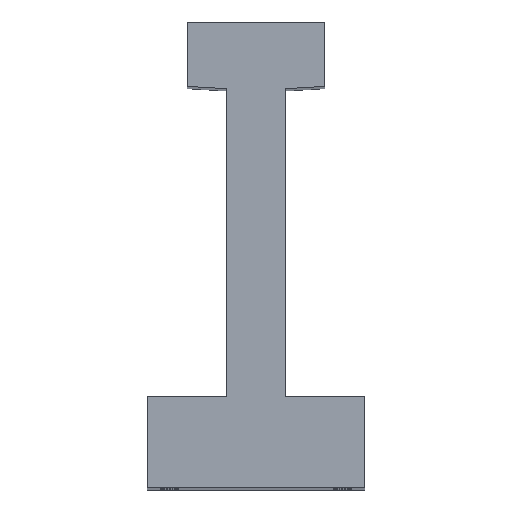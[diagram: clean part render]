
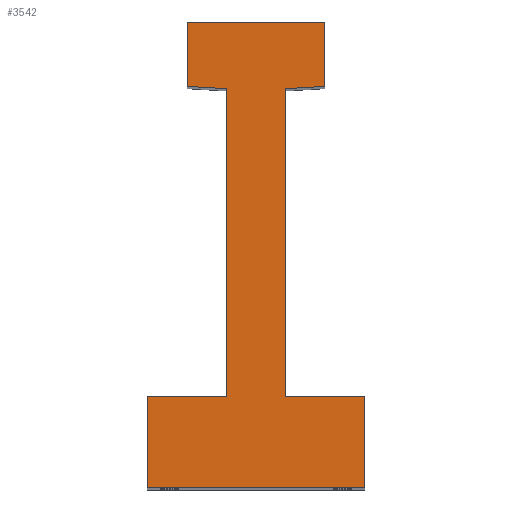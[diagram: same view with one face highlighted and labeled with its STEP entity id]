
A CAD part, top view. The second image highlights one B-rep face of the part: STEP entity #3542.
In plain terms, the highlighted planar face has unit normal (0, 0, 1).
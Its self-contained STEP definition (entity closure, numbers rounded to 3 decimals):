
#5 = CARTESIAN_POINT ( 'NONE',  ( -24.5, 0., 150.5 ) ) ;
#96 = EDGE_CURVE ( 'NONE', #1202, #1522, #4627, .T. ) ;
#150 = VECTOR ( 'NONE', #3651, 1000. ) ;
#190 = CARTESIAN_POINT ( 'NONE',  ( 6.6, 20.5, 150.5 ) ) ;
#192 = LINE ( 'NONE', #4562, #2494 ) ;
#211 = EDGE_CURVE ( 'NONE', #1436, #2612, #4349, .T. ) ;
#439 = VECTOR ( 'NONE', #743, 1000. ) ;
#583 = FACE_OUTER_BOUND ( 'NONE', #1184, .T. ) ;
#588 = VECTOR ( 'NONE', #3634, 1000. ) ;
#633 = CARTESIAN_POINT ( 'NONE',  ( -15.5, 104.8, 150.5 ) ) ;
#690 = CARTESIAN_POINT ( 'NONE',  ( 24.5, 20.5, 150.5 ) ) ;
#692 = VECTOR ( 'NONE', #4153, 1000. ) ;
#711 = LINE ( 'NONE', #1833, #588 ) ;
#724 = DIRECTION ( 'NONE',  ( -0.998, 0.056, 0. ) ) ;
#728 = DIRECTION ( 'NONE',  ( 1., 0., 0. ) ) ;
#743 = DIRECTION ( 'NONE',  ( 0., 1., 0. ) ) ;
#773 = CARTESIAN_POINT ( 'NONE',  ( -6.6, 89.8, 150.5 ) ) ;
#786 = VECTOR ( 'NONE', #1640, 1000. ) ;
#788 = CARTESIAN_POINT ( 'NONE',  ( 24.5, 0., 150.5 ) ) ;
#801 = DIRECTION ( 'NONE',  ( 0.998, 0.056, 0. ) ) ;
#863 = EDGE_CURVE ( 'NONE', #3700, #3867, #711, .T. ) ;
#877 = CARTESIAN_POINT ( 'NONE',  ( 24.5, 20.5, 150.5 ) ) ;
#890 = ORIENTED_EDGE ( 'NONE', *, *, #863, .T. ) ;
#999 = CARTESIAN_POINT ( 'NONE',  ( 6.6, 89.8, 150.5 ) ) ;
#1140 = PLANE ( 'NONE',  #3842 ) ;
#1155 = EDGE_CURVE ( 'NONE', #1522, #2568, #2255, .T. ) ;
#1164 = EDGE_CURVE ( 'NONE', #3867, #2612, #3809, .T. ) ;
#1167 = CARTESIAN_POINT ( 'NONE',  ( 6.6, 89.8, 150.5 ) ) ;
#1180 = CARTESIAN_POINT ( 'NONE',  ( -24.5, 20.5, 150.5 ) ) ;
#1184 = EDGE_LOOP ( 'NONE', ( #2032, #4057, #3939, #3127, #2171, #1977, #2379, #4394, #3873, #1569, #890, #3522 ) ) ;
#1194 = VERTEX_POINT ( 'NONE', #3945 ) ;
#1202 = VERTEX_POINT ( 'NONE', #690 ) ;
#1350 = VERTEX_POINT ( 'NONE', #1180 ) ;
#1384 = VECTOR ( 'NONE', #728, 1000. ) ;
#1407 = LINE ( 'NONE', #3625, #439 ) ;
#1419 = CARTESIAN_POINT ( 'NONE',  ( -15.5, 89.8, 150.5 ) ) ;
#1436 = VERTEX_POINT ( 'NONE', #1519 ) ;
#1519 = CARTESIAN_POINT ( 'NONE',  ( -6.6, 89.8, 150.5 ) ) ;
#1522 = VERTEX_POINT ( 'NONE', #3073 ) ;
#1553 = VECTOR ( 'NONE', #4207, 1000. ) ;
#1569 = ORIENTED_EDGE ( 'NONE', *, *, #3075, .T. ) ;
#1640 = DIRECTION ( 'NONE',  ( 0., -1., 0. ) ) ;
#1728 = VECTOR ( 'NONE', #801, 1000. ) ;
#1745 = CARTESIAN_POINT ( 'NONE',  ( -15.5, 90.3, 150.5 ) ) ;
#1833 = CARTESIAN_POINT ( 'NONE',  ( 15.5, 104.8, 150.5 ) ) ;
#1873 = CARTESIAN_POINT ( 'NONE',  ( 0., 0., 150.5 ) ) ;
#1945 = VERTEX_POINT ( 'NONE', #3114 ) ;
#1977 = ORIENTED_EDGE ( 'NONE', *, *, #3997, .T. ) ;
#2032 = ORIENTED_EDGE ( 'NONE', *, *, #211, .F. ) ;
#2082 = VECTOR ( 'NONE', #3211, 1000. ) ;
#2090 = LINE ( 'NONE', #5, #1384 ) ;
#2171 = ORIENTED_EDGE ( 'NONE', *, *, #3341, .T. ) ;
#2255 = LINE ( 'NONE', #190, #1553 ) ;
#2306 = CARTESIAN_POINT ( 'NONE',  ( 15.5, 104.8, 150.5 ) ) ;
#2379 = ORIENTED_EDGE ( 'NONE', *, *, #96, .T. ) ;
#2406 = DIRECTION ( 'NONE',  ( 0., 1., 0. ) ) ;
#2494 = VECTOR ( 'NONE', #2406, 1000. ) ;
#2568 = VERTEX_POINT ( 'NONE', #999 ) ;
#2612 = VERTEX_POINT ( 'NONE', #1745 ) ;
#2624 = CARTESIAN_POINT ( 'NONE',  ( 15.5, 90.3, 150.5 ) ) ;
#2633 = DIRECTION ( 'NONE',  ( 1., 0., 0. ) ) ;
#2674 = DIRECTION ( 'NONE',  ( 0., -1., 0. ) ) ;
#2695 = EDGE_CURVE ( 'NONE', #1945, #1350, #3880, .T. ) ;
#2898 = CARTESIAN_POINT ( 'NONE',  ( -24.5, 20.5, 150.5 ) ) ;
#3073 = CARTESIAN_POINT ( 'NONE',  ( 6.6, 20.5, 150.5 ) ) ;
#3075 = EDGE_CURVE ( 'NONE', #3389, #3700, #192, .T. ) ;
#3114 = CARTESIAN_POINT ( 'NONE',  ( -6.6, 20.5, 150.5 ) ) ;
#3127 = ORIENTED_EDGE ( 'NONE', *, *, #3764, .T. ) ;
#3211 = DIRECTION ( 'NONE',  ( 0., -1., 0. ) ) ;
#3341 = EDGE_CURVE ( 'NONE', #1194, #3454, #2090, .T. ) ;
#3389 = VERTEX_POINT ( 'NONE', #2624 ) ;
#3401 = CARTESIAN_POINT ( 'NONE',  ( -24.5, 0., 150.5 ) ) ;
#3413 = VECTOR ( 'NONE', #724, 1000. ) ;
#3454 = VERTEX_POINT ( 'NONE', #788 ) ;
#3458 = EDGE_CURVE ( 'NONE', #2568, #3389, #3765, .T. ) ;
#3522 = ORIENTED_EDGE ( 'NONE', *, *, #1164, .T. ) ;
#3542 = ADVANCED_FACE ( 'NONE', ( #583 ), #1140, .T. ) ;
#3625 = CARTESIAN_POINT ( 'NONE',  ( 24.5, 0., 150.5 ) ) ;
#3634 = DIRECTION ( 'NONE',  ( -1., 0., 0. ) ) ;
#3651 = DIRECTION ( 'NONE',  ( -1., 0., 0. ) ) ;
#3665 = LINE ( 'NONE', #3797, #786 ) ;
#3700 = VERTEX_POINT ( 'NONE', #2306 ) ;
#3764 = EDGE_CURVE ( 'NONE', #1350, #1194, #3897, .T. ) ;
#3765 = LINE ( 'NONE', #1167, #1728 ) ;
#3797 = CARTESIAN_POINT ( 'NONE',  ( -6.6, 20.5, 150.5 ) ) ;
#3809 = LINE ( 'NONE', #1419, #2082 ) ;
#3842 = AXIS2_PLACEMENT_3D ( 'NONE', #1873, #4388, #2633 ) ;
#3867 = VERTEX_POINT ( 'NONE', #633 ) ;
#3873 = ORIENTED_EDGE ( 'NONE', *, *, #3458, .T. ) ;
#3880 = LINE ( 'NONE', #2898, #150 ) ;
#3897 = LINE ( 'NONE', #3401, #4396 ) ;
#3939 = ORIENTED_EDGE ( 'NONE', *, *, #2695, .T. ) ;
#3945 = CARTESIAN_POINT ( 'NONE',  ( -24.5, 0., 150.5 ) ) ;
#3997 = EDGE_CURVE ( 'NONE', #3454, #1202, #1407, .T. ) ;
#4057 = ORIENTED_EDGE ( 'NONE', *, *, #4402, .T. ) ;
#4153 = DIRECTION ( 'NONE',  ( -1., 0., 0. ) ) ;
#4207 = DIRECTION ( 'NONE',  ( 0., 1., 0. ) ) ;
#4349 = LINE ( 'NONE', #773, #3413 ) ;
#4388 = DIRECTION ( 'NONE',  ( 0., 0., 1. ) ) ;
#4394 = ORIENTED_EDGE ( 'NONE', *, *, #1155, .T. ) ;
#4396 = VECTOR ( 'NONE', #2674, 1000. ) ;
#4402 = EDGE_CURVE ( 'NONE', #1436, #1945, #3665, .T. ) ;
#4562 = CARTESIAN_POINT ( 'NONE',  ( 15.5, 89.8, 150.5 ) ) ;
#4627 = LINE ( 'NONE', #877, #692 ) ;
